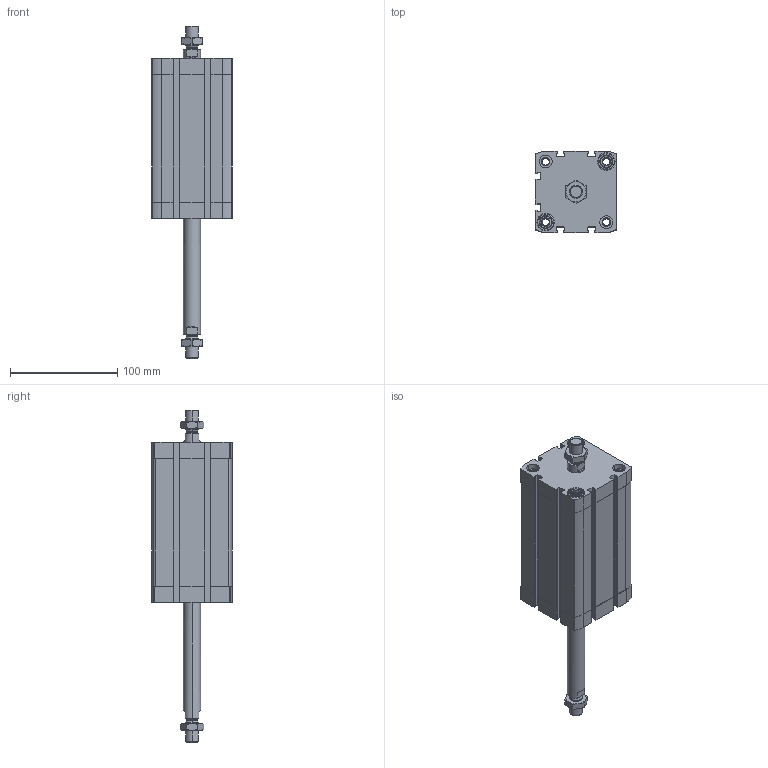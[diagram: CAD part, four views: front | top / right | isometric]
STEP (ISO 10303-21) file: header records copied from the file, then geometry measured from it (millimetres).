
FILE_DESCRIPTION (( 'STEP AP203' ), '1' );
FILE_NAME ('CCN63-100-P.STEP', '2020-06-22T19:04:25', ( '' ), ( '' ), 'SwSTEP 2.0', 'SolidWorks 2019', '' );
FILE_SCHEMA (( 'CONFIG_CONTROL_DESIGN' ));
Length unit declared in the file: millimetre
Products named in the file (1): CCN63-100-P
Bounding box: 75.5 x 75.5 x 309.4 mm (x, y, z)
Volume: 519412 mm3; surface area: 137554.8 mm2
Topology: 4 solids, 4 shells, 528 faces, 1396 edges, 908 vertices
Faces by surface type: plane 240, cylinder 220, cone 60, torus 8
Entity records: 17259 total; most frequent: CARTESIAN_POINT 3829, DIRECTION 2850, ORIENTED_EDGE 2792, EDGE_CURVE 1396, AXIS2_PLACEMENT_3D 1049, VERTEX_POINT 908, LINE 752, VECTOR 752
